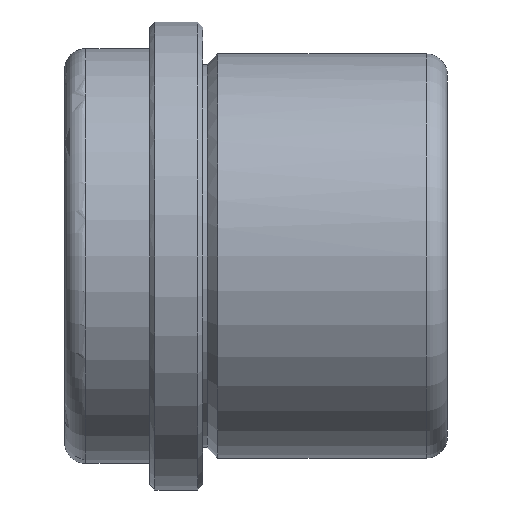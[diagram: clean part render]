
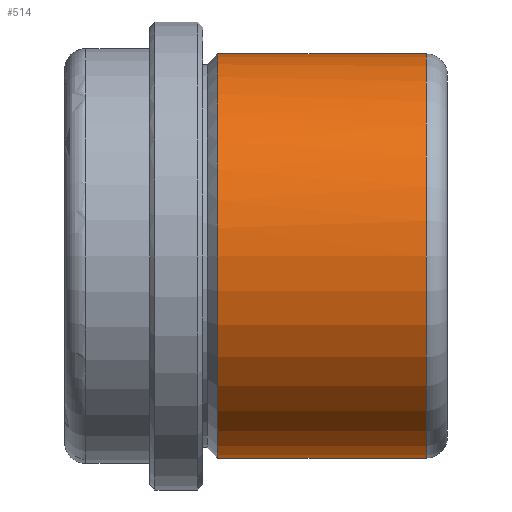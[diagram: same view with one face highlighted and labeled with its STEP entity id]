
A CAD part, front view. The second image highlights one B-rep face of the part: STEP entity #514.
In plain terms, the highlighted cylindrical face has radius 19 mm (diameter 38 mm), a partial arc.
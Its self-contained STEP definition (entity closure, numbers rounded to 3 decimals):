
#297=CARTESIAN_POINT('Line Origine',(23.,0.,19.)) ;
#301=CARTESIAN_POINT('Vertex',(21.,0.,19.)) ;
#303=CARTESIAN_POINT('Vertex',(1.414,0.,19.)) ;
#317=CARTESIAN_POINT('Vertex',(21.,0.,-19.)) ;
#320=CARTESIAN_POINT('Line Origine',(23.,0.,-19.)) ;
#324=CARTESIAN_POINT('Vertex',(1.414,0.,-19.)) ;
#474=CARTESIAN_POINT('Axis2P3D Location',(23.,0.,0.)) ;
#479=CARTESIAN_POINT('Axis2P3D Location',(21.,0.,0.)) ;
#483=CARTESIAN_POINT('Vertex',(21.,-19.,0.)) ;
#486=CARTESIAN_POINT('Axis2P3D Location',(21.,0.,0.)) ;
#492=CARTESIAN_POINT('Control Point',(1.414,0.,19.)) ;
#493=CARTESIAN_POINT('Control Point',(1.414,-5.969,19.)) ;
#494=CARTESIAN_POINT('Control Point',(1.414,-11.944,16.663)) ;
#495=CARTESIAN_POINT('Control Point',(1.414,-16.663,11.944)) ;
#496=CARTESIAN_POINT('Control Point',(1.414,-19.,5.969)) ;
#497=CARTESIAN_POINT('Control Point',(1.414,-19.,0.)) ;
#498=CARTESIAN_POINT('Vertex',(1.414,-19.,0.)) ;
#501=CARTESIAN_POINT('Axis2P3D Location',(1.414,0.,0.)) ;
#298=DIRECTION('Vector Direction',(-1.,0.,0.)) ;
#321=DIRECTION('Vector Direction',(-1.,0.,0.)) ;
#475=DIRECTION('Axis2P3D Direction',(-1.,-0.,-0.)) ;
#476=DIRECTION('Axis2P3D XDirection',(0.,0.,-1.)) ;
#480=DIRECTION('Axis2P3D Direction',(-1.,-0.,-0.)) ;
#487=DIRECTION('Axis2P3D Direction',(-1.,-0.,-0.)) ;
#502=DIRECTION('Axis2P3D Direction',(-1.,-0.,-0.)) ;
#477=AXIS2_PLACEMENT_3D('Cylinder Axis2P3D',#474,#475,#476) ;
#481=AXIS2_PLACEMENT_3D('Circle Axis2P3D',#479,#480,$) ;
#488=AXIS2_PLACEMENT_3D('Circle Axis2P3D',#486,#487,$) ;
#503=AXIS2_PLACEMENT_3D('Circle Axis2P3D',#501,#502,$) ;
#507=ORIENTED_EDGE('',*,*,#326,.T.) ;
#508=ORIENTED_EDGE('',*,*,#485,.F.) ;
#509=ORIENTED_EDGE('',*,*,#490,.F.) ;
#510=ORIENTED_EDGE('',*,*,#305,.T.) ;
#511=ORIENTED_EDGE('',*,*,#500,.T.) ;
#512=ORIENTED_EDGE('',*,*,#505,.T.) ;
#299=VECTOR('Line Direction',#298,1.) ;
#322=VECTOR('Line Direction',#321,1.) ;
#514=ADVANCED_FACE('CF 631 24 x 36',(#513),#478,.T.) ;
#491=B_SPLINE_CURVE_WITH_KNOTS('',5,(#492,#493,#494,#495,#496,#497),.UNSPECIFIED.,.F.,.U.,(6,6),(-14.923,14.923),.UNSPECIFIED.) ;
#482=CIRCLE('generated circle',#481,19.) ;
#489=CIRCLE('generated circle',#488,19.) ;
#504=CIRCLE('generated circle',#503,19.) ;
#478=CYLINDRICAL_SURFACE('generated cylinder',#477,19.) ;
#305=EDGE_CURVE('',#302,#304,#300,.T.) ;
#326=EDGE_CURVE('',#325,#318,#323,.F.) ;
#485=EDGE_CURVE('',#484,#318,#482,.F.) ;
#490=EDGE_CURVE('',#302,#484,#489,.F.) ;
#500=EDGE_CURVE('',#304,#499,#491,.T.) ;
#505=EDGE_CURVE('',#499,#325,#504,.F.) ;
#506=EDGE_LOOP('',(#507,#508,#509,#510,#511,#512)) ;
#513=FACE_OUTER_BOUND('',#506,.T.) ;
#300=LINE('Line',#297,#299) ;
#323=LINE('Line',#320,#322) ;
#302=VERTEX_POINT('',#301) ;
#304=VERTEX_POINT('',#303) ;
#318=VERTEX_POINT('',#317) ;
#325=VERTEX_POINT('',#324) ;
#484=VERTEX_POINT('',#483) ;
#499=VERTEX_POINT('',#498) ;
